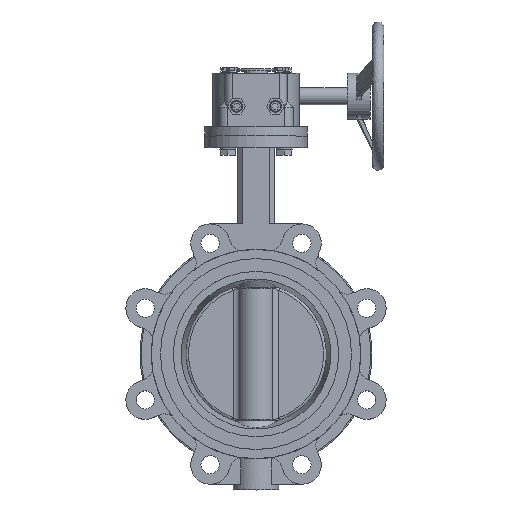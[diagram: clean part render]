
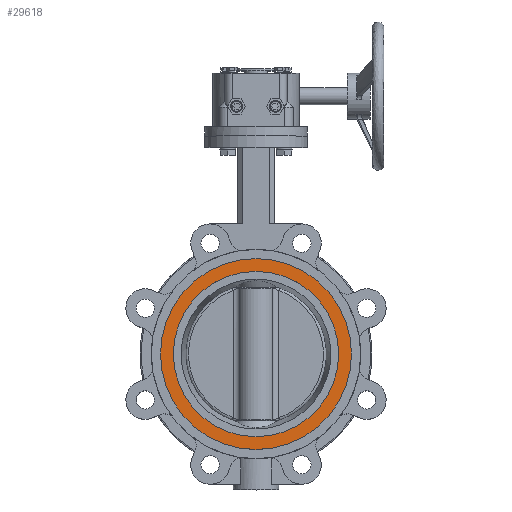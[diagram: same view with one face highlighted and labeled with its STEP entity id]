
A CAD part, top view. The second image highlights one B-rep face of the part: STEP entity #29618.
In plain terms, the highlighted planar face has unit normal (0, 0, 1).
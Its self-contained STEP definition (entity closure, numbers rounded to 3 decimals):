
#5197 = PLANE ( 'NONE',  #39467 ) ;
#8137 = VERTEX_POINT ( 'NONE', #49068 ) ;
#12199 = EDGE_CURVE ( 'NONE', #8137, #8137, #24542, .T. ) ;
#12747 = DIRECTION ( 'NONE',  ( -1., 0., 0. ) ) ;
#14889 = AXIS2_PLACEMENT_3D ( 'NONE', #46696, #34566, #23354 ) ;
#15775 = EDGE_LOOP ( 'NONE', ( #40632 ) ) ;
#16133 = DIRECTION ( 'NONE',  ( 1., 0., 0. ) ) ;
#17310 = VERTEX_POINT ( 'NONE', #21215 ) ;
#19420 = CARTESIAN_POINT ( 'NONE',  ( -19.337, -34.707, 30. ) ) ;
#21215 = CARTESIAN_POINT ( 'NONE',  ( -102.987, -34.707, 30. ) ) ;
#23354 = DIRECTION ( 'NONE',  ( -1., 0., 0. ) ) ;
#23868 = DIRECTION ( 'NONE',  ( 0., 0., -1. ) ) ;
#24542 = CIRCLE ( 'NONE', #30122, 72.4 ) ;
#26678 = CIRCLE ( 'NONE', #14889, 83.65 ) ;
#27408 = EDGE_LOOP ( 'NONE', ( #27859 ) ) ;
#27554 = FACE_OUTER_BOUND ( 'NONE', #27408, .T. ) ;
#27859 = ORIENTED_EDGE ( 'NONE', *, *, #44530, .F. ) ;
#28064 = FACE_BOUND ( 'NONE', #15775, .T. ) ;
#29618 = ADVANCED_FACE ( 'NONE', ( #27554, #28064 ), #5197, .T. ) ;
#30122 = AXIS2_PLACEMENT_3D ( 'NONE', #19420, #23868, #12747 ) ;
#34566 = DIRECTION ( 'NONE',  ( 0., 0., -1. ) ) ;
#38464 = CARTESIAN_POINT ( 'NONE',  ( -91.737, -34.707, 30. ) ) ;
#39467 = AXIS2_PLACEMENT_3D ( 'NONE', #38464, #46629, #16133 ) ;
#40632 = ORIENTED_EDGE ( 'NONE', *, *, #12199, .T. ) ;
#44530 = EDGE_CURVE ( 'NONE', #17310, #17310, #26678, .T. ) ;
#46629 = DIRECTION ( 'NONE',  ( 0., 0., 1. ) ) ;
#46696 = CARTESIAN_POINT ( 'NONE',  ( -19.337, -34.707, 30. ) ) ;
#49068 = CARTESIAN_POINT ( 'NONE',  ( -91.737, -34.707, 30. ) ) ;
